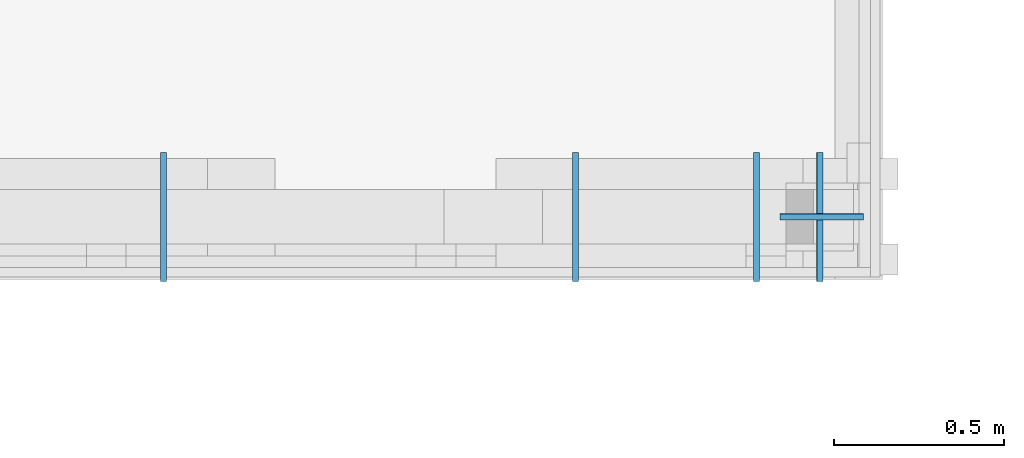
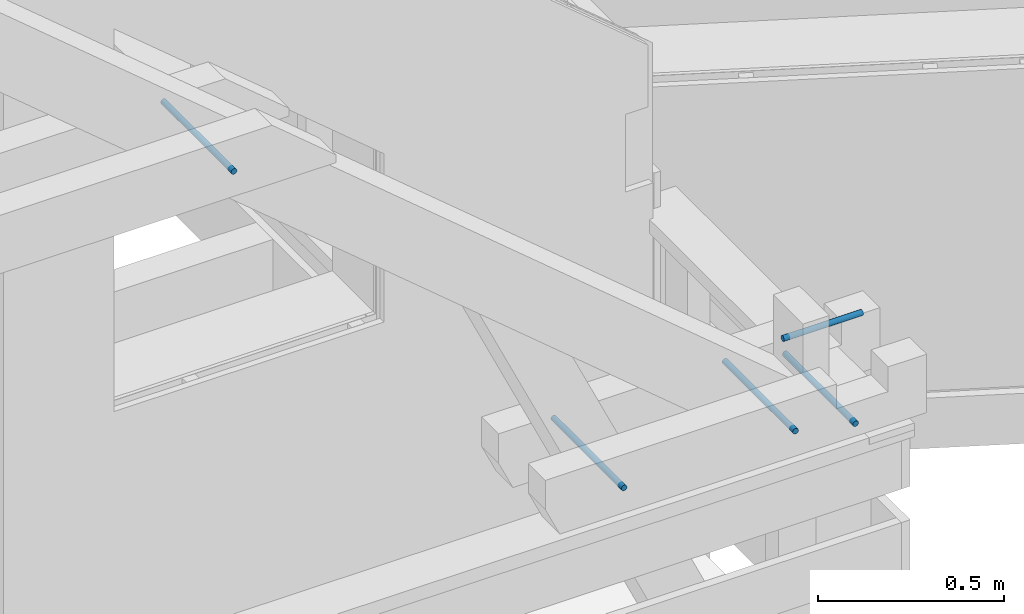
# One storey, part 2 of 24: 5 fasteners.
"""IFC2X3 building model written with IfcOpenShell, lengths in metres."""

from ifc_helpers import new_model, si_unit, direction, frame, origin_with_axes, origin_2d_with_axis, place, context, subcontext, project, spatial, circle, extrude, element, save


model = new_model("IFC2X3")

# Units and contexts
model_context = context("Model", 3, precision=1e-06, world=origin_with_axes(), true_north=direction((0.0, 1.0, 0.0)))
body_context = subcontext(model_context, "Body", "Model", "MODEL_VIEW")
ifc_project = project(units=[si_unit("LENGTHUNIT", "METRE"), si_unit("AREAUNIT", "SQUARE_METRE"), si_unit("VOLUMEUNIT", "CUBIC_METRE"), si_unit("PLANEANGLEUNIT", "RADIAN")], contexts=[model_context])

# Site, building, storey
site_placement = place(None, origin_with_axes())
site = spatial("IfcSite", under=ifc_project, at=site_placement, CompositionType="ELEMENT")
building_placement = place(site_placement, origin_with_axes())
building = spatial("IfcBuilding", under=site, at=building_placement, Name="Building 1", CompositionType="ELEMENT")
storey_placement = place(building_placement, origin_with_axes())
storey = spatial("IfcBuildingStorey", under=building, at=storey_placement, Name="Premier Etage", CompositionType="ELEMENT", Elevation=0.0)

# Fasteners
fastener_placement = place(storey_placement, frame((6.5345, 0.056, 4.1328151), z_axis=(0.0, 0.0, 1.0), x_axis=(1.0, 0.0, 0.0)))
element("IfcFastener", 1, at=fastener_placement, inside=storey, Name="Tige filetée", context=body_context, shape_type="SweptSolid", body=[
    extrude(circle(Radius=0.009, at=origin_2d_with_axis()), frame((0.0, 0.0, 0.0), z_axis=(1.0, 0.0, 0.0), x_axis=(0.0, 1.0, 0.0)), (0.0, 0.0, 1.0), 0.246),
])
for number, where, z_axis, x_axis in (
    (2, (6.652, -0.134, 3.9274076), (0.0, 0.0, -1.0), (0.0, 1.0, 0.0)),
    (3, (5.9324139, -0.134, 3.968), (0.0, 0.0, -1.0), (0.0, 1.0, 0.0)),
    (4, (4.7198727, -0.134, 5.4324058), (0.0, 0.0, -1.0), (0.0, 1.0, 0.0)),
    (5, (6.4650836, -0.134, 3.968), (0.0, 0.0, -1.0), (0.0, 1.0, 0.0)),
):
    element("IfcFastener", number, at=place(storey_placement, frame(where, z_axis=z_axis, x_axis=x_axis)), inside=storey, Name="Tige filetée", context=body_context, shape_type="SweptSolid", body=[
        extrude(circle(Radius=0.009, at=origin_2d_with_axis()), frame((0.0, 0.0, 0.0), z_axis=(1.0, 0.0, 0.0), x_axis=(0.0, 1.0, 0.0)), (0.0, 0.0, 1.0), 0.38),
    ])

save(model, "model.ifc")
